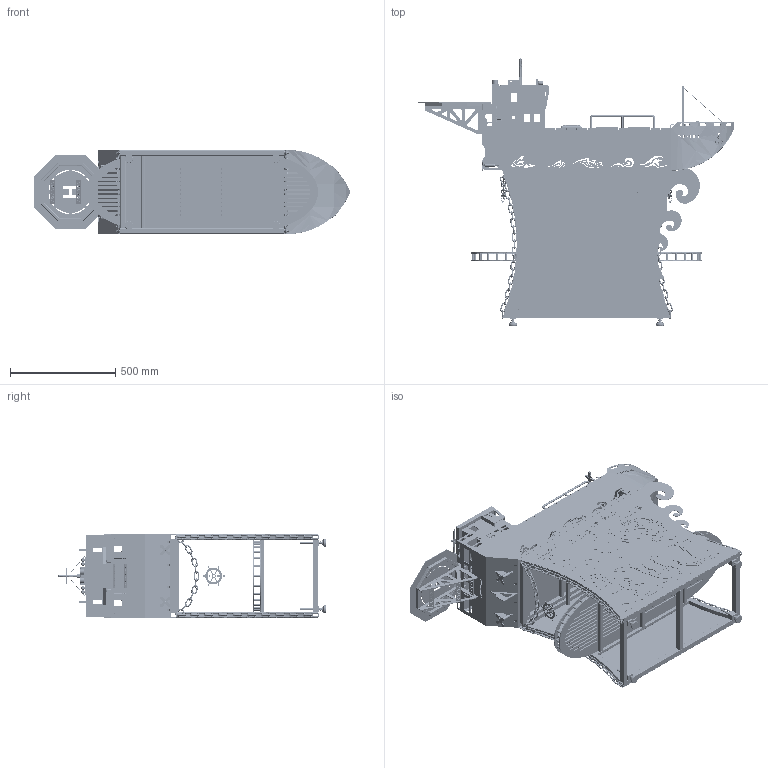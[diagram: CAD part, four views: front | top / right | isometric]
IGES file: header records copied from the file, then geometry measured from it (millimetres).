
Start section: SolidWorks IGES file using analytic representation for surfaces
Global section: file name: C:\Users\Ìèõàèë\Desktop\ship\Assemly\ïîëíàÿ_ñáîðêà.IGS; native system: SolidWorks 2014; preprocessor: SolidWorks 2014; author: Ìèõàèë; date: 190430.101659; units: millimetre
Bounding box: 1507 x 1272.4 x 400 mm (x, y, z)
Surface area: 12441516.6 mm2 (no closed solid volume)
Topology: 0 solids, 0 shells, 11847 faces, 130706 edges, 130668 vertices
Faces by surface type: revolution 6085, bspline 5762
